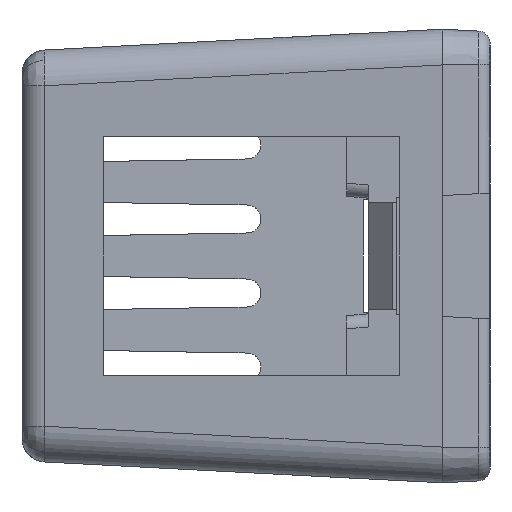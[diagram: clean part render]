
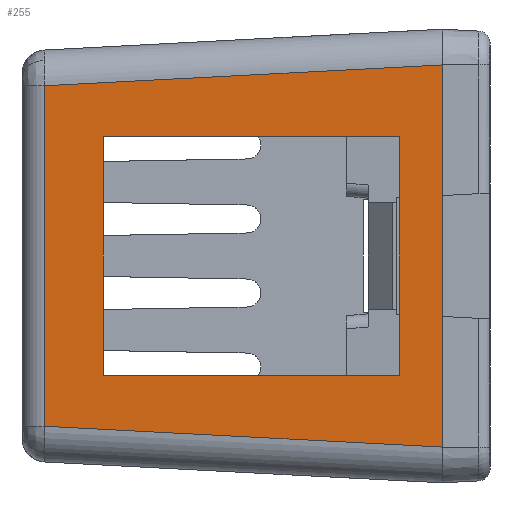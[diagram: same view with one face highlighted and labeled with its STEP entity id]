
A CAD part, left-side view. The second image highlights one B-rep face of the part: STEP entity #255.
In plain terms, the highlighted planar face has unit normal (-0.999, 0.052, 0).
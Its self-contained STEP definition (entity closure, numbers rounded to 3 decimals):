
#38 = CARTESIAN_POINT ( 'NONE',  ( -30.7, 0., -5. ) ) ;
#164 = VERTEX_POINT ( 'NONE', #1148 ) ;
#174 = CARTESIAN_POINT ( 'NONE',  ( -30.7, 0., 9.5 ) ) ;
#207 = VECTOR ( 'NONE', #2680, 1000. ) ;
#222 = CARTESIAN_POINT ( 'NONE',  ( -30.606, 1.8, 5. ) ) ;
#235 = VECTOR ( 'NONE', #4621, 1000. ) ;
#255 = ADVANCED_FACE ( 'NONE', ( #709, #4309 ), #7385, .T. ) ;
#289 = CARTESIAN_POINT ( 'NONE',  ( -29.827, 16.652, -7.129 ) ) ;
#321 = ORIENTED_EDGE ( 'NONE', *, *, #5493, .T. ) ;
#338 = CARTESIAN_POINT ( 'NONE',  ( -30.7, 0., 8.002 ) ) ;
#390 = LINE ( 'NONE', #3436, #6068 ) ;
#401 = ORIENTED_EDGE ( 'NONE', *, *, #7510, .T. ) ;
#452 = ORIENTED_EDGE ( 'NONE', *, *, #3825, .T. ) ;
#709 = FACE_BOUND ( 'NONE', #2354, .T. ) ;
#754 = VERTEX_POINT ( 'NONE', #6543 ) ;
#777 = LINE ( 'NONE', #38, #3283 ) ;
#781 = DIRECTION ( 'NONE',  ( 0., 0., -1. ) ) ;
#915 = LINE ( 'NONE', #4625, #1251 ) ;
#1017 = EDGE_CURVE ( 'NONE', #4342, #164, #6122, .T. ) ;
#1148 = CARTESIAN_POINT ( 'NONE',  ( -30.606, 1.8, -5. ) ) ;
#1251 = VECTOR ( 'NONE', #3449, 1000. ) ;
#1584 = VERTEX_POINT ( 'NONE', #4387 ) ;
#1701 = EDGE_CURVE ( 'NONE', #754, #4118, #390, .T. ) ;
#1866 = DIRECTION ( 'NONE',  ( -0.999, 0.052, 0. ) ) ;
#2194 = ORIENTED_EDGE ( 'NONE', *, *, #1017, .T. ) ;
#2292 = ORIENTED_EDGE ( 'NONE', *, *, #6798, .T. ) ;
#2354 = EDGE_LOOP ( 'NONE', ( #4502, #321, #2194, #401 ) ) ;
#2379 = CARTESIAN_POINT ( 'NONE',  ( -29.956, 14.2, -5. ) ) ;
#2483 = ORIENTED_EDGE ( 'NONE', *, *, #3961, .T. ) ;
#2636 = DIRECTION ( 'NONE',  ( 0., 0., -1. ) ) ;
#2680 = DIRECTION ( 'NONE',  ( 0.052, 0.997, -0.052 ) ) ;
#2850 = VECTOR ( 'NONE', #781, 1000. ) ;
#3176 = DIRECTION ( 'NONE',  ( -0.052, -0.999, 0. ) ) ;
#3283 = VECTOR ( 'NONE', #4922, 1000. ) ;
#3436 = CARTESIAN_POINT ( 'NONE',  ( -30.7, 0., 9.5 ) ) ;
#3449 = DIRECTION ( 'NONE',  ( 0., 0., 1. ) ) ;
#3566 = VERTEX_POINT ( 'NONE', #2379 ) ;
#3592 = AXIS2_PLACEMENT_3D ( 'NONE', #174, #1866, #3176 ) ;
#3662 = LINE ( 'NONE', #6683, #4098 ) ;
#3742 = DIRECTION ( 'NONE',  ( -0.052, -0.997, -0.052 ) ) ;
#3808 = EDGE_LOOP ( 'NONE', ( #2483, #2292, #452, #7571 ) ) ;
#3825 = EDGE_CURVE ( 'NONE', #4290, #754, #3662, .T. ) ;
#3961 = EDGE_CURVE ( 'NONE', #4118, #1584, #4445, .T. ) ;
#4098 = VECTOR ( 'NONE', #3742, 1000. ) ;
#4118 = VERTEX_POINT ( 'NONE', #338 ) ;
#4290 = VERTEX_POINT ( 'NONE', #289 ) ;
#4309 = FACE_OUTER_BOUND ( 'NONE', #3808, .T. ) ;
#4342 = VERTEX_POINT ( 'NONE', #222 ) ;
#4387 = CARTESIAN_POINT ( 'NONE',  ( -29.827, 16.652, 7.129 ) ) ;
#4445 = LINE ( 'NONE', #6155, #207 ) ;
#4502 = ORIENTED_EDGE ( 'NONE', *, *, #7016, .T. ) ;
#4621 = DIRECTION ( 'NONE',  ( -0.052, -0.999, 0. ) ) ;
#4625 = CARTESIAN_POINT ( 'NONE',  ( -29.956, 14.2, 9.5 ) ) ;
#4669 = VERTEX_POINT ( 'NONE', #5597 ) ;
#4922 = DIRECTION ( 'NONE',  ( 0.052, 0.999, 0. ) ) ;
#5306 = DIRECTION ( 'NONE',  ( 0., 0., 1. ) ) ;
#5388 = VECTOR ( 'NONE', #2636, 1000. ) ;
#5493 = EDGE_CURVE ( 'NONE', #4669, #4342, #6343, .T. ) ;
#5597 = CARTESIAN_POINT ( 'NONE',  ( -29.956, 14.2, 5. ) ) ;
#5795 = CARTESIAN_POINT ( 'NONE',  ( -30.7, 0., 5. ) ) ;
#6068 = VECTOR ( 'NONE', #5306, 1000. ) ;
#6122 = LINE ( 'NONE', #6164, #2850 ) ;
#6155 = CARTESIAN_POINT ( 'NONE',  ( -30.704, -0.078, 8.006 ) ) ;
#6164 = CARTESIAN_POINT ( 'NONE',  ( -30.606, 1.8, 9.5 ) ) ;
#6343 = LINE ( 'NONE', #5795, #235 ) ;
#6543 = CARTESIAN_POINT ( 'NONE',  ( -30.7, 0., -8.002 ) ) ;
#6683 = CARTESIAN_POINT ( 'NONE',  ( -30.652, 0.912, -7.954 ) ) ;
#6798 = EDGE_CURVE ( 'NONE', #1584, #4290, #6833, .T. ) ;
#6833 = LINE ( 'NONE', #7397, #5388 ) ;
#7016 = EDGE_CURVE ( 'NONE', #3566, #4669, #915, .T. ) ;
#7385 = PLANE ( 'NONE',  #3592 ) ;
#7397 = CARTESIAN_POINT ( 'NONE',  ( -29.827, 16.652, -7.08 ) ) ;
#7510 = EDGE_CURVE ( 'NONE', #164, #3566, #777, .T. ) ;
#7571 = ORIENTED_EDGE ( 'NONE', *, *, #1701, .T. ) ;
